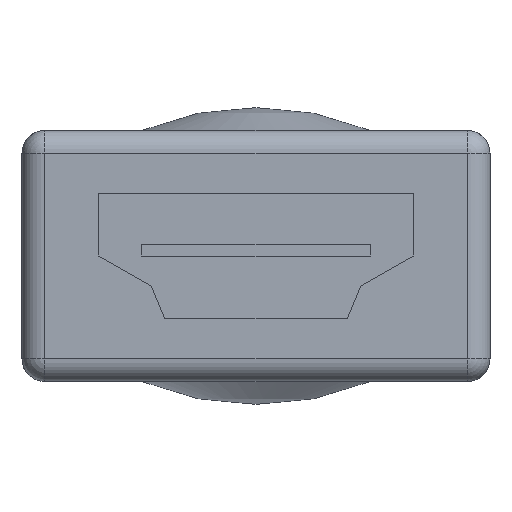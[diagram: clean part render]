
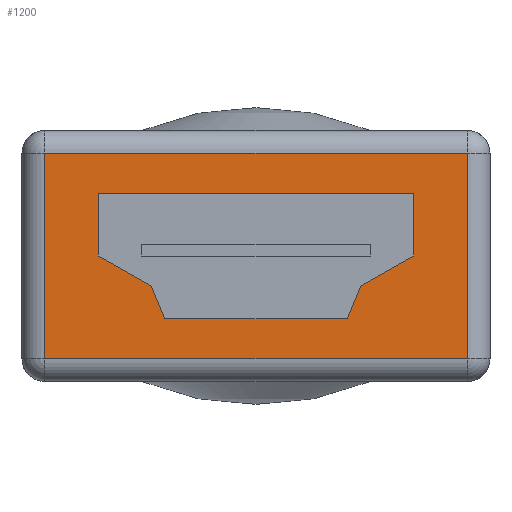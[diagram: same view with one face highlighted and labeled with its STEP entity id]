
A CAD part, left-side view. The second image highlights one B-rep face of the part: STEP entity #1200.
In plain terms, the highlighted planar face has unit normal (-1, 0, 0).
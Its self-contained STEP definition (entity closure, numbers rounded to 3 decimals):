
#975 = VERTEX_POINT('',#976);
#976 = CARTESIAN_POINT('',(-5.5,9.25,1.));
#985 = VERTEX_POINT('',#986);
#986 = CARTESIAN_POINT('',(-5.5,-9.25,1.));
#993 = EDGE_CURVE('',#975,#985,#994,.T.);
#994 = LINE('',#995,#996);
#995 = CARTESIAN_POINT('',(-5.5,10.25,1.));
#996 = VECTOR('',#997,1.);
#997 = DIRECTION('',(0.,-1.,0.));
#1087 = VERTEX_POINT('',#1088);
#1088 = CARTESIAN_POINT('',(-5.5,9.25,10.));
#1097 = VERTEX_POINT('',#1098);
#1098 = CARTESIAN_POINT('',(-5.5,-9.25,10.));
#1105 = EDGE_CURVE('',#1087,#1097,#1106,.T.);
#1106 = LINE('',#1107,#1108);
#1107 = CARTESIAN_POINT('',(-5.5,10.25,10.));
#1108 = VECTOR('',#1109,1.);
#1109 = DIRECTION('',(0.,-1.,0.));
#1154 = EDGE_CURVE('',#985,#1097,#1155,.T.);
#1155 = LINE('',#1156,#1157);
#1156 = CARTESIAN_POINT('',(-5.5,-9.25,0.));
#1157 = VECTOR('',#1158,1.);
#1158 = DIRECTION('',(0.,0.,1.));
#1200 = ADVANCED_FACE('',(#1201,#1212),#1278,.F.);
#1201 = FACE_BOUND('',#1202,.F.);
#1202 = EDGE_LOOP('',(#1203,#1204,#1210,#1211));
#1203 = ORIENTED_EDGE('',*,*,#993,.F.);
#1204 = ORIENTED_EDGE('',*,*,#1205,.T.);
#1205 = EDGE_CURVE('',#975,#1087,#1206,.T.);
#1206 = LINE('',#1207,#1208);
#1207 = CARTESIAN_POINT('',(-5.5,9.25,0.));
#1208 = VECTOR('',#1209,1.);
#1209 = DIRECTION('',(0.,0.,1.));
#1210 = ORIENTED_EDGE('',*,*,#1105,.T.);
#1211 = ORIENTED_EDGE('',*,*,#1154,.F.);
#1212 = FACE_BOUND('',#1213,.F.);
#1213 = EDGE_LOOP('',(#1214,#1224,#1232,#1240,#1248,#1256,#1264,#1272));
#1214 = ORIENTED_EDGE('',*,*,#1215,.T.);
#1215 = EDGE_CURVE('',#1216,#1218,#1220,.T.);
#1216 = VERTEX_POINT('',#1217);
#1217 = CARTESIAN_POINT('',(-5.5,-6.9,8.25));
#1218 = VERTEX_POINT('',#1219);
#1219 = CARTESIAN_POINT('',(-5.5,6.9,8.25));
#1220 = LINE('',#1221,#1222);
#1221 = CARTESIAN_POINT('',(-5.5,-6.9,8.25));
#1222 = VECTOR('',#1223,1.);
#1223 = DIRECTION('',(0.,1.,0.));
#1224 = ORIENTED_EDGE('',*,*,#1225,.T.);
#1225 = EDGE_CURVE('',#1218,#1226,#1228,.T.);
#1226 = VERTEX_POINT('',#1227);
#1227 = CARTESIAN_POINT('',(-5.5,6.9,5.5));
#1228 = LINE('',#1229,#1230);
#1229 = CARTESIAN_POINT('',(-5.5,6.9,8.25));
#1230 = VECTOR('',#1231,1.);
#1231 = DIRECTION('',(0.,0.,-1.));
#1232 = ORIENTED_EDGE('',*,*,#1233,.T.);
#1233 = EDGE_CURVE('',#1226,#1234,#1236,.T.);
#1234 = VERTEX_POINT('',#1235);
#1235 = CARTESIAN_POINT('',(-5.5,4.6,4.2));
#1236 = LINE('',#1237,#1238);
#1237 = CARTESIAN_POINT('',(-5.5,6.9,5.5));
#1238 = VECTOR('',#1239,1.);
#1239 = DIRECTION('',(0.,-0.871,-0.492));
#1240 = ORIENTED_EDGE('',*,*,#1241,.T.);
#1241 = EDGE_CURVE('',#1234,#1242,#1244,.T.);
#1242 = VERTEX_POINT('',#1243);
#1243 = CARTESIAN_POINT('',(-5.5,4.,2.75));
#1244 = LINE('',#1245,#1246);
#1245 = CARTESIAN_POINT('',(-5.5,4.6,4.2));
#1246 = VECTOR('',#1247,1.);
#1247 = DIRECTION('',(0.,-0.382,-0.924));
#1248 = ORIENTED_EDGE('',*,*,#1249,.T.);
#1249 = EDGE_CURVE('',#1242,#1250,#1252,.T.);
#1250 = VERTEX_POINT('',#1251);
#1251 = CARTESIAN_POINT('',(-5.5,-4.,2.75));
#1252 = LINE('',#1253,#1254);
#1253 = CARTESIAN_POINT('',(-5.5,4.,2.75));
#1254 = VECTOR('',#1255,1.);
#1255 = DIRECTION('',(0.,-1.,0.));
#1256 = ORIENTED_EDGE('',*,*,#1257,.T.);
#1257 = EDGE_CURVE('',#1250,#1258,#1260,.T.);
#1258 = VERTEX_POINT('',#1259);
#1259 = CARTESIAN_POINT('',(-5.5,-4.6,4.2));
#1260 = LINE('',#1261,#1262);
#1261 = CARTESIAN_POINT('',(-5.5,-4.,2.75));
#1262 = VECTOR('',#1263,1.);
#1263 = DIRECTION('',(0.,-0.382,0.924));
#1264 = ORIENTED_EDGE('',*,*,#1265,.T.);
#1265 = EDGE_CURVE('',#1258,#1266,#1268,.T.);
#1266 = VERTEX_POINT('',#1267);
#1267 = CARTESIAN_POINT('',(-5.5,-6.9,5.5));
#1268 = LINE('',#1269,#1270);
#1269 = CARTESIAN_POINT('',(-5.5,-4.6,4.2));
#1270 = VECTOR('',#1271,1.);
#1271 = DIRECTION('',(0.,-0.871,0.492));
#1272 = ORIENTED_EDGE('',*,*,#1273,.T.);
#1273 = EDGE_CURVE('',#1266,#1216,#1274,.T.);
#1274 = LINE('',#1275,#1276);
#1275 = CARTESIAN_POINT('',(-5.5,-6.9,5.5));
#1276 = VECTOR('',#1277,1.);
#1277 = DIRECTION('',(0.,0.,1.));
#1278 = PLANE('',#1279);
#1279 = AXIS2_PLACEMENT_3D('',#1280,#1281,#1282);
#1280 = CARTESIAN_POINT('',(-5.5,10.25,0.));
#1281 = DIRECTION('',(1.,0.,0.));
#1282 = DIRECTION('',(0.,-1.,0.));
